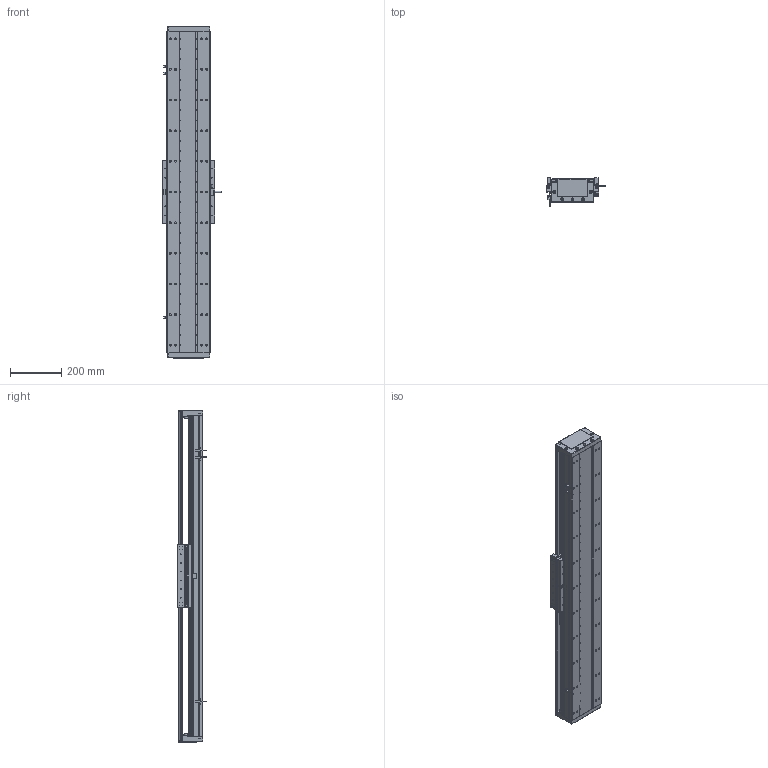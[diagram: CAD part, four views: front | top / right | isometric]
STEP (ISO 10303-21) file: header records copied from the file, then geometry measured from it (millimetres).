
FILE_DESCRIPTION (( 'STEP AP203' ), '1' );
FILE_NAME ('DA-C165-C3-T960-C010-0.2 直线电机.STEP', '2023-06-13T08:42:26', ( '微软用户' ), ( '微软中国' ), 'SwSTEP 2.0', 'SolidWorks 2019', '' );
FILE_SCHEMA (( 'CONFIG_CONTROL_DESIGN' ));
Length unit declared in the file: millimetre
Products named in the file (15): 复件 DA165-T-002-00 盖板^DA-C165-C3-T-C010-0.2-N 直线电机_0840-002-00; 葩璃 PM-T45^DA-C165-C3-T-C010-0.2-N 眻盄萇儂; DA-C165-C3-T960-C010-0.2 眻盄萇儂; 复件 DA165-GYP-00 光电感应片^DA-C165-C3-T-C010-0.2-N 直线电机; 复件 DA95-HXJ-00 缓冲橡胶^DA-C165-C3-T-C010-0.2-N 直线电机; 复件 XD-U-02L 磁栅尺^DA-C165-C3-T-C010-0.2-N 直线电机_T; 复件 CU165 底座^IU-CU165-L 底座导轨_L1260; 复件 六角薄螺母 M3^DA-C165-C3-T-C010-0.2-N 直线电机_GB_FASTENER_NUT_STNAB M3-C; 复件 DA165-DG-H-N-00 端盖^DA-C165-C3-T-C010-0.2-N 直线电机; IU-CU165-L 菁釱絳寢; 葩璃 CKM03-W075-C1C2-TP-3.0^DA-C165-C3-T-C010-0.2-N 眻盄萇儂; 珨极趙賑雄怢啣C3-wf; 葩璃 CKM01-W075-TRL^DA-C165-C3-T-C010-0.2-N 眻盄萇儂; 复件 DMA-010-0.2 读数头^DA-C165-C3-T-C010-0.2-N 直线电机; 葩璃 DA95-GT-T-00^IU-CU165-L 菁釱絳寢_T
Assembly tree (30 placements, depth 3):
  DA-C165-C3-T960-C010-0.2 眻盄萇儂
    IU-CU165-L 菁釱絳寢
      复件 CU165 底座^IU-CU165-L 底座导轨_L1260
      葩璃 DA95-GT-T-00^IU-CU165-L 菁釱絳寢_T  x4
    复件 DA165-DG-H-N-00 端盖^DA-C165-C3-T-C010-0.2-N 直线电机  x2
    复件 DA95-HXJ-00 缓冲橡胶^DA-C165-C3-T-C010-0.2-N 直线电机  x4
    复件 DA165-T-002-00 盖板^DA-C165-C3-T-C010-0.2-N 直线电机_0840-002-00
    复件 XD-U-02L 磁栅尺^DA-C165-C3-T-C010-0.2-N 直线电机_T
    葩璃 PM-T45^DA-C165-C3-T-C010-0.2-N 眻盄萇儂  x3
    葩璃 CKM01-W075-TRL^DA-C165-C3-T-C010-0.2-N 眻盄萇儂
    复件 DA165-GYP-00 光电感应片^DA-C165-C3-T-C010-0.2-N 直线电机
    复件 DMA-010-0.2 读数头^DA-C165-C3-T-C010-0.2-N 直线电机
    葩璃 CKM03-W075-C1C2-TP-3.0^DA-C165-C3-T-C010-0.2-N 眻盄萇儂
    复件 六角薄螺母 M3^DA-C165-C3-T-C010-0.2-N 直线电机_GB_FASTENER_NUT_STNAB M3-C  x8
    珨极趙賑雄怢啣C3-wf
Bounding box: 233 x 111.45 x 1300 mm (x, y, z)
Volume: 9609800 mm3; surface area: 2606211 mm2
Topology: 68 solids, 118 shells, 3675 faces, 9972 edges, 6206 vertices
Faces by surface type: cylinder 1882, plane 1183, cone 552, torus 54, sphere 4
Entity records: 111413 total; most frequent: CARTESIAN_POINT 27136, DIRECTION 17432, ORIENTED_EDGE 16998, EDGE_CURVE 8499, AXIS2_PLACEMENT_3D 6618, VERTEX_POINT 5494, LINE 4196, VECTOR 4196
